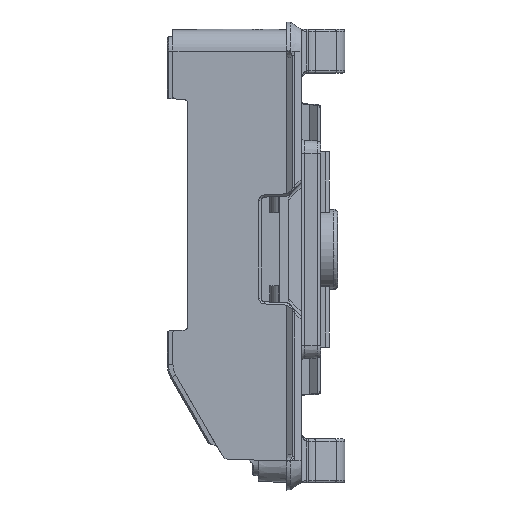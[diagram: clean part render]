
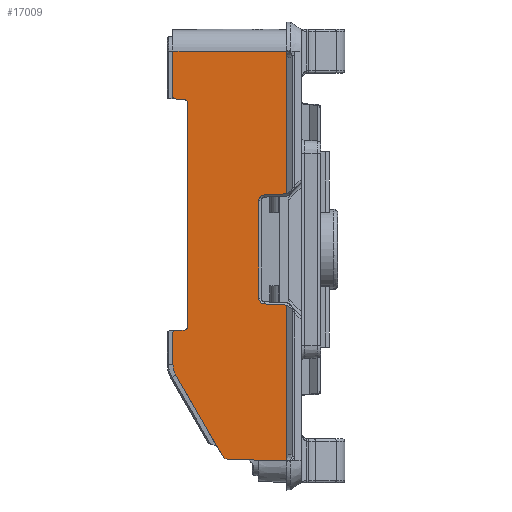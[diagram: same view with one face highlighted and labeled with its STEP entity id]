
A CAD part, left-side view. The second image highlights one B-rep face of the part: STEP entity #17009.
In plain terms, the highlighted planar face has unit normal (-1, 0, 0).
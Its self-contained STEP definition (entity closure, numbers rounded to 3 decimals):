
#660=PLANE('',#18249);
#1027=FACE_OUTER_BOUND('',#2086,.T.);
#2086=EDGE_LOOP('',(#11908,#11909,#11910,#11911,#11912,#11913,#11914,#11915,
#11916,#11917,#11918,#11919,#11920,#11921,#11922,#11923,#11924,#11925,#11926,
#11927,#11928,#11929,#11930));
#3200=CIRCLE('',#18250,0.8);
#3201=CIRCLE('',#18251,0.8);
#3202=CIRCLE('',#18252,0.2);
#3203=CIRCLE('',#18253,0.5);
#3204=CIRCLE('',#18254,0.5);
#3205=CIRCLE('',#18255,0.2);
#3206=CIRCLE('',#18256,3.);
#3207=CIRCLE('',#18257,1.);
#4497=LINE('',#27749,#5815);
#4499=LINE('',#27757,#5817);
#4500=LINE('',#27761,#5818);
#4501=LINE('',#27765,#5819);
#4502=LINE('',#27767,#5820);
#4503=LINE('',#27769,#5821);
#4504=LINE('',#27771,#5822);
#4505=LINE('',#27773,#5823);
#4506=LINE('',#27777,#5824);
#4507=LINE('',#27781,#5825);
#4508=LINE('',#27785,#5826);
#4509=LINE('',#27789,#5827);
#4510=LINE('',#27793,#5828);
#4511=LINE('',#27796,#5829);
#4512=LINE('',#27797,#5830);
#5815=VECTOR('',#20778,10.);
#5817=VECTOR('',#20782,3.046);
#5818=VECTOR('',#20785,13.351);
#5819=VECTOR('',#20788,3.046);
#5820=VECTOR('',#20789,18.72);
#5821=VECTOR('',#20790,0.846);
#5822=VECTOR('',#20791,15.58);
#5823=VECTOR('',#20792,6.352);
#5824=VECTOR('',#20795,1.338);
#5825=VECTOR('',#20798,30.658);
#5826=VECTOR('',#20801,1.338);
#5827=VECTOR('',#20804,4.408);
#5828=VECTOR('',#20807,12.743);
#5829=VECTOR('',#20810,10.);
#5830=VECTOR('',#20811,20.52);
#7301=VERTEX_POINT('',#27747);
#7302=VERTEX_POINT('',#27748);
#7303=VERTEX_POINT('',#27755);
#7304=VERTEX_POINT('',#27756);
#7305=VERTEX_POINT('',#27758);
#7306=VERTEX_POINT('',#27760);
#7307=VERTEX_POINT('',#27762);
#7308=VERTEX_POINT('',#27764);
#7309=VERTEX_POINT('',#27766);
#7310=VERTEX_POINT('',#27768);
#7311=VERTEX_POINT('',#27770);
#7312=VERTEX_POINT('',#27772);
#7313=VERTEX_POINT('',#27774);
#7314=VERTEX_POINT('',#27776);
#7315=VERTEX_POINT('',#27778);
#7316=VERTEX_POINT('',#27780);
#7317=VERTEX_POINT('',#27782);
#7318=VERTEX_POINT('',#27784);
#7319=VERTEX_POINT('',#27786);
#7320=VERTEX_POINT('',#27788);
#7321=VERTEX_POINT('',#27790);
#7322=VERTEX_POINT('',#27792);
#7323=VERTEX_POINT('',#27795);
#9030=EDGE_CURVE('',#7301,#7302,#4497,.T.);
#9033=EDGE_CURVE('',#7303,#7304,#4499,.T.);
#9034=EDGE_CURVE('',#7305,#7303,#3200,.T.);
#9035=EDGE_CURVE('',#7306,#7305,#4500,.T.);
#9036=EDGE_CURVE('',#7307,#7306,#3201,.T.);
#9037=EDGE_CURVE('',#7308,#7307,#4501,.T.);
#9038=EDGE_CURVE('',#7308,#7309,#4502,.T.);
#9039=EDGE_CURVE('',#7310,#7309,#4503,.T.);
#9040=EDGE_CURVE('',#7310,#7311,#4504,.T.);
#9041=EDGE_CURVE('',#7312,#7311,#4505,.T.);
#9042=EDGE_CURVE('',#7313,#7312,#3202,.T.);
#9043=EDGE_CURVE('',#7314,#7313,#4506,.T.);
#9044=EDGE_CURVE('',#7315,#7314,#3203,.T.);
#9045=EDGE_CURVE('',#7315,#7316,#4507,.T.);
#9046=EDGE_CURVE('',#7317,#7316,#3204,.T.);
#9047=EDGE_CURVE('',#7318,#7317,#4508,.T.);
#9048=EDGE_CURVE('',#7319,#7318,#3205,.T.);
#9049=EDGE_CURVE('',#7320,#7319,#4509,.T.);
#9050=EDGE_CURVE('',#7321,#7320,#3206,.T.);
#9051=EDGE_CURVE('',#7322,#7321,#4510,.T.);
#9052=EDGE_CURVE('',#7302,#7322,#3207,.T.);
#9053=EDGE_CURVE('',#7301,#7323,#4511,.T.);
#9054=EDGE_CURVE('',#7304,#7323,#4512,.T.);
#11908=ORIENTED_EDGE('',*,*,#9033,.F.);
#11909=ORIENTED_EDGE('',*,*,#9034,.F.);
#11910=ORIENTED_EDGE('',*,*,#9035,.F.);
#11911=ORIENTED_EDGE('',*,*,#9036,.F.);
#11912=ORIENTED_EDGE('',*,*,#9037,.F.);
#11913=ORIENTED_EDGE('',*,*,#9038,.T.);
#11914=ORIENTED_EDGE('',*,*,#9039,.F.);
#11915=ORIENTED_EDGE('',*,*,#9040,.T.);
#11916=ORIENTED_EDGE('',*,*,#9041,.F.);
#11917=ORIENTED_EDGE('',*,*,#9042,.F.);
#11918=ORIENTED_EDGE('',*,*,#9043,.F.);
#11919=ORIENTED_EDGE('',*,*,#9044,.F.);
#11920=ORIENTED_EDGE('',*,*,#9045,.T.);
#11921=ORIENTED_EDGE('',*,*,#9046,.F.);
#11922=ORIENTED_EDGE('',*,*,#9047,.F.);
#11923=ORIENTED_EDGE('',*,*,#9048,.F.);
#11924=ORIENTED_EDGE('',*,*,#9049,.F.);
#11925=ORIENTED_EDGE('',*,*,#9050,.F.);
#11926=ORIENTED_EDGE('',*,*,#9051,.F.);
#11927=ORIENTED_EDGE('',*,*,#9052,.F.);
#11928=ORIENTED_EDGE('',*,*,#9030,.F.);
#11929=ORIENTED_EDGE('',*,*,#9053,.T.);
#11930=ORIENTED_EDGE('',*,*,#9054,.F.);
#17009=ADVANCED_FACE('',(#1027),#660,.T.);
#18249=AXIS2_PLACEMENT_3D('',#27754,#20780,#20781);
#18250=AXIS2_PLACEMENT_3D('',#27759,#20783,#20784);
#18251=AXIS2_PLACEMENT_3D('',#27763,#20786,#20787);
#18252=AXIS2_PLACEMENT_3D('',#27775,#20793,#20794);
#18253=AXIS2_PLACEMENT_3D('',#27779,#20796,#20797);
#18254=AXIS2_PLACEMENT_3D('',#27783,#20799,#20800);
#18255=AXIS2_PLACEMENT_3D('',#27787,#20802,#20803);
#18256=AXIS2_PLACEMENT_3D('',#27791,#20805,#20806);
#18257=AXIS2_PLACEMENT_3D('',#27794,#20808,#20809);
#20778=DIRECTION('',(0.,1.,0.026));
#20780=DIRECTION('center_axis',(-1.,0.,0.));
#20781=DIRECTION('ref_axis',(0.,0.,-1.));
#20782=DIRECTION('',(0.,-0.999,-0.052));
#20783=DIRECTION('center_axis',(-1.,0.,0.));
#20784=DIRECTION('ref_axis',(0.,1.,0.));
#20785=DIRECTION('',(0.,0.,-1.));
#20786=DIRECTION('center_axis',(-1.,0.,0.));
#20787=DIRECTION('ref_axis',(0.,0.052,0.999));
#20788=DIRECTION('',(0.,0.999,-0.052));
#20789=DIRECTION('',(0.,0.,1.));
#20790=DIRECTION('',(0.,0.,-1.));
#20791=DIRECTION('',(0.,1.,0.));
#20792=DIRECTION('',(0.,0.,1.));
#20793=DIRECTION('center_axis',(1.,0.,0.));
#20794=DIRECTION('ref_axis',(0.,0.052,-0.999));
#20795=DIRECTION('',(0.,0.999,0.052));
#20796=DIRECTION('center_axis',(-1.,0.,0.));
#20797=DIRECTION('ref_axis',(0.,-1.,0.));
#20798=DIRECTION('',(0.,0.,-1.));
#20799=DIRECTION('center_axis',(-1.,0.,0.));
#20800=DIRECTION('ref_axis',(0.,-0.052,-0.999));
#20801=DIRECTION('',(0.,-0.999,0.052));
#20802=DIRECTION('center_axis',(1.,0.,0.));
#20803=DIRECTION('ref_axis',(0.,1.,0.));
#20804=DIRECTION('',(0.,0.,1.));
#20805=DIRECTION('center_axis',(1.,0.,0.));
#20806=DIRECTION('ref_axis',(0.,0.866,-0.5));
#20807=DIRECTION('',(0.,0.5,0.866));
#20808=DIRECTION('center_axis',(1.,0.,0.));
#20809=DIRECTION('ref_axis',(0.,0.026,-1.));
#20810=DIRECTION('',(0.,0.,1.));
#20811=DIRECTION('',(0.,0.,-1.));
#27747=CARTESIAN_POINT('',(-45.5,86.7,-29.));
#27748=CARTESIAN_POINT('',(-45.5,94.667,-28.791));
#27749=CARTESIAN_POINT('',(-45.5,87.435,-28.981));
#27754=CARTESIAN_POINT('Origin',(-45.5,86.7,27.2));
#27755=CARTESIAN_POINT('',(-45.5,89.742,-7.474));
#27756=CARTESIAN_POINT('',(-45.5,86.7,-7.634));
#27757=CARTESIAN_POINT('',(-45.5,89.742,-7.474));
#27758=CARTESIAN_POINT('',(-45.5,90.5,-6.676));
#27759=CARTESIAN_POINT('Origin',(-45.5,89.7,-6.676));
#27760=CARTESIAN_POINT('',(-45.5,90.5,6.676));
#27761=CARTESIAN_POINT('',(-45.5,90.5,6.676));
#27762=CARTESIAN_POINT('',(-45.5,89.742,7.474));
#27763=CARTESIAN_POINT('Origin',(-45.5,89.7,6.676));
#27764=CARTESIAN_POINT('',(-45.5,86.7,7.634));
#27765=CARTESIAN_POINT('',(-45.5,86.7,7.634));
#27766=CARTESIAN_POINT('',(-45.5,86.7,26.354));
#27767=CARTESIAN_POINT('',(-45.5,86.7,7.634));
#27768=CARTESIAN_POINT('',(-45.5,86.7,27.2));
#27769=CARTESIAN_POINT('',(-45.5,86.7,27.2));
#27770=CARTESIAN_POINT('',(-45.5,102.28,27.2));
#27771=CARTESIAN_POINT('',(-45.5,86.7,27.2));
#27772=CARTESIAN_POINT('',(-45.5,102.28,20.848));
#27773=CARTESIAN_POINT('',(-45.5,102.28,20.848));
#27774=CARTESIAN_POINT('',(-45.5,102.09,20.648));
#27775=CARTESIAN_POINT('Origin',(-45.5,102.08,20.848));
#27776=CARTESIAN_POINT('',(-45.5,100.754,20.578));
#27777=CARTESIAN_POINT('',(-45.5,100.754,20.578));
#27778=CARTESIAN_POINT('',(-45.5,100.28,20.079));
#27779=CARTESIAN_POINT('Origin',(-45.5,100.78,20.079));
#27780=CARTESIAN_POINT('',(-45.5,100.28,-10.579));
#27781=CARTESIAN_POINT('',(-45.5,100.28,20.079));
#27782=CARTESIAN_POINT('',(-45.5,100.754,-11.078));
#27783=CARTESIAN_POINT('Origin',(-45.5,100.78,-10.579));
#27784=CARTESIAN_POINT('',(-45.5,102.09,-11.148));
#27785=CARTESIAN_POINT('',(-45.5,102.09,-11.148));
#27786=CARTESIAN_POINT('',(-45.5,102.28,-11.348));
#27787=CARTESIAN_POINT('Origin',(-45.5,102.08,-11.348));
#27788=CARTESIAN_POINT('',(-45.5,102.28,-15.756));
#27789=CARTESIAN_POINT('',(-45.5,102.28,-15.756));
#27790=CARTESIAN_POINT('',(-45.5,101.878,-17.256));
#27791=CARTESIAN_POINT('Origin',(-45.5,99.28,-15.756));
#27792=CARTESIAN_POINT('',(-45.5,95.507,-28.292));
#27793=CARTESIAN_POINT('',(-45.5,95.507,-28.292));
#27794=CARTESIAN_POINT('Origin',(-45.5,94.641,-27.792));
#27795=CARTESIAN_POINT('',(-45.5,86.7,-28.154));
#27796=CARTESIAN_POINT('',(-45.5,86.7,13.6));
#27797=CARTESIAN_POINT('',(-45.5,86.7,-7.634));
